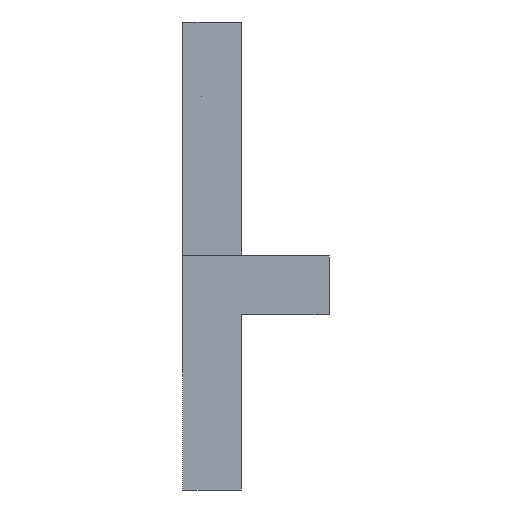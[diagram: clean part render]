
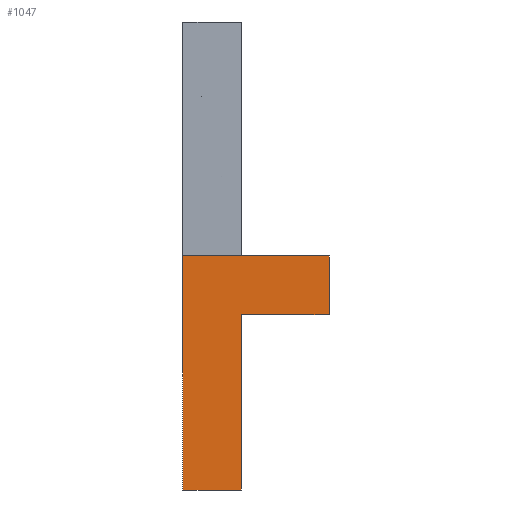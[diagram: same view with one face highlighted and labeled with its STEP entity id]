
A CAD part, left-side view. The second image highlights one B-rep face of the part: STEP entity #1047.
In plain terms, the highlighted planar face has unit normal (-1, 0, 0).
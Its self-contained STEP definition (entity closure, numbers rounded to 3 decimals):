
#63 = ORIENTED_EDGE ( 'NONE', *, *, #762, .T. ) ;
#78 = CARTESIAN_POINT ( 'NONE',  ( -45., 0., 0. ) ) ;
#86 = PLANE ( 'NONE',  #1486 ) ;
#140 = LINE ( 'NONE', #628, #1311 ) ;
#171 = CARTESIAN_POINT ( 'NONE',  ( -45., -15., 10. ) ) ;
#180 = EDGE_CURVE ( 'NONE', #507, #1328, #140, .T. ) ;
#195 = DIRECTION ( 'NONE',  ( 0., 0., -1. ) ) ;
#201 = ORIENTED_EDGE ( 'NONE', *, *, #979, .T. ) ;
#213 = ORIENTED_EDGE ( 'NONE', *, *, #1266, .F. ) ;
#233 = EDGE_CURVE ( 'NONE', #1328, #1386, #1220, .T. ) ;
#263 = CARTESIAN_POINT ( 'NONE',  ( -45., 0., 0. ) ) ;
#288 = CARTESIAN_POINT ( 'NONE',  ( -45., 10., -30. ) ) ;
#301 = DIRECTION ( 'NONE',  ( 0., -1., 0. ) ) ;
#317 = CARTESIAN_POINT ( 'NONE',  ( -45., -15., 0. ) ) ;
#334 = VERTEX_POINT ( 'NONE', #288 ) ;
#342 = VECTOR ( 'NONE', #355, 1000. ) ;
#355 = DIRECTION ( 'NONE',  ( 0., 0., 1. ) ) ;
#388 = ORIENTED_EDGE ( 'NONE', *, *, #233, .F. ) ;
#401 = LINE ( 'NONE', #545, #805 ) ;
#468 = LINE ( 'NONE', #1070, #342 ) ;
#507 = VERTEX_POINT ( 'NONE', #317 ) ;
#532 = ORIENTED_EDGE ( 'NONE', *, *, #180, .F. ) ;
#545 = CARTESIAN_POINT ( 'NONE',  ( -45., 10., -30. ) ) ;
#547 = CARTESIAN_POINT ( 'NONE',  ( -45., 0., 0. ) ) ;
#588 = VECTOR ( 'NONE', #803, 1000. ) ;
#604 = LINE ( 'NONE', #967, #1279 ) ;
#628 = CARTESIAN_POINT ( 'NONE',  ( -45., -15., 0. ) ) ;
#691 = VERTEX_POINT ( 'NONE', #726 ) ;
#703 = ORIENTED_EDGE ( 'NONE', *, *, #1187, .T. ) ;
#718 = EDGE_LOOP ( 'NONE', ( #388, #532, #63, #201, #213, #703 ) ) ;
#726 = CARTESIAN_POINT ( 'NONE',  ( -45., -15., 10. ) ) ;
#757 = DIRECTION ( 'NONE',  ( 0., 1., 0. ) ) ;
#762 = EDGE_CURVE ( 'NONE', #507, #691, #604, .T. ) ;
#803 = DIRECTION ( 'NONE',  ( 0., 1., 0. ) ) ;
#805 = VECTOR ( 'NONE', #301, 1000. ) ;
#967 = CARTESIAN_POINT ( 'NONE',  ( -45., -15., 0. ) ) ;
#979 = EDGE_CURVE ( 'NONE', #691, #1524, #1347, .T. ) ;
#1015 = CARTESIAN_POINT ( 'NONE',  ( -45., 10., 10. ) ) ;
#1047 = ADVANCED_FACE ( 'NONE', ( #1237 ), #86, .F. ) ;
#1070 = CARTESIAN_POINT ( 'NONE',  ( -45., 10., 0. ) ) ;
#1094 = CARTESIAN_POINT ( 'NONE',  ( -45., 0., -30. ) ) ;
#1165 = DIRECTION ( 'NONE',  ( 1., 0., 0. ) ) ;
#1187 = EDGE_CURVE ( 'NONE', #334, #1386, #401, .T. ) ;
#1210 = DIRECTION ( 'NONE',  ( 0., 0., 1. ) ) ;
#1220 = LINE ( 'NONE', #547, #1536 ) ;
#1237 = FACE_OUTER_BOUND ( 'NONE', #718, .T. ) ;
#1266 = EDGE_CURVE ( 'NONE', #334, #1524, #468, .T. ) ;
#1279 = VECTOR ( 'NONE', #1210, 1000. ) ;
#1311 = VECTOR ( 'NONE', #757, 1000. ) ;
#1328 = VERTEX_POINT ( 'NONE', #263 ) ;
#1347 = LINE ( 'NONE', #171, #588 ) ;
#1368 = DIRECTION ( 'NONE',  ( 0., 0., -1. ) ) ;
#1386 = VERTEX_POINT ( 'NONE', #1094 ) ;
#1486 = AXIS2_PLACEMENT_3D ( 'NONE', #78, #1165, #195 ) ;
#1524 = VERTEX_POINT ( 'NONE', #1015 ) ;
#1536 = VECTOR ( 'NONE', #1368, 1000. ) ;
